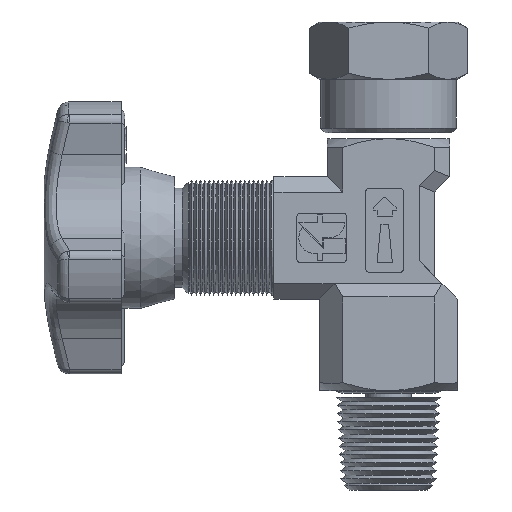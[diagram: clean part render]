
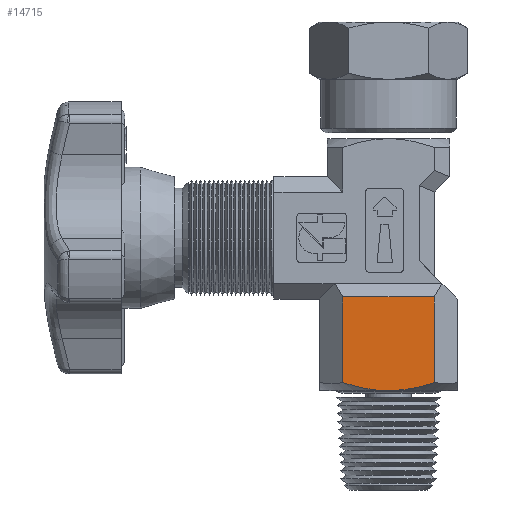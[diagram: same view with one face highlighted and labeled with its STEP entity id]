
A CAD part, left-side view. The second image highlights one B-rep face of the part: STEP entity #14715.
In plain terms, the highlighted planar face has unit normal (-1, 0, 0).
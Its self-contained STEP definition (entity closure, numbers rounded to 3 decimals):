
#89 = VECTOR ( 'NONE', #10836, 1000. ) ;
#301 = CARTESIAN_POINT ( 'NONE',  ( -9., 6., -53. ) ) ;
#340 = CARTESIAN_POINT ( 'NONE',  ( -9., -6., -38.951 ) ) ;
#471 = EDGE_CURVE ( 'NONE', #1850, #11115, #12588, .T. ) ;
#900 = CARTESIAN_POINT ( 'NONE',  ( -9., 1.028, -39.974 ) ) ;
#1814 = CARTESIAN_POINT ( 'NONE',  ( -9., -2.031, -39.898 ) ) ;
#1849 = FACE_OUTER_BOUND ( 'NONE', #7828, .T. ) ;
#1850 = VERTEX_POINT ( 'NONE', #12351 ) ;
#2021 = DIRECTION ( 'NONE',  ( -1., 0., 0. ) ) ;
#2896 = ORIENTED_EDGE ( 'NONE', *, *, #471, .T. ) ;
#2912 = LINE ( 'NONE', #301, #89 ) ;
#3519 = CARTESIAN_POINT ( 'NONE',  ( -9., 0.511, -40. ) ) ;
#3598 = DIRECTION ( 'NONE',  ( 0., -1., 0. ) ) ;
#4258 = CARTESIAN_POINT ( 'NONE',  ( -9., -6., -38.951 ) ) ;
#4267 = CARTESIAN_POINT ( 'NONE',  ( -9., 6., -27.732 ) ) ;
#4368 = CARTESIAN_POINT ( 'NONE',  ( -9., 6., -38.951 ) ) ;
#4437 = DIRECTION ( 'NONE',  ( 0., 0., 1. ) ) ;
#5521 = ORIENTED_EDGE ( 'NONE', *, *, #15281, .F. ) ;
#5582 = EDGE_CURVE ( 'NONE', #14668, #1850, #9993, .T. ) ;
#5622 = CARTESIAN_POINT ( 'NONE',  ( -9., 5.031, -39.261 ) ) ;
#5870 = LINE ( 'NONE', #16431, #10321 ) ;
#6874 = CARTESIAN_POINT ( 'NONE',  ( -9., -1.021, -40. ) ) ;
#6920 = EDGE_CURVE ( 'NONE', #11115, #13147, #11097, .T. ) ;
#7684 = CARTESIAN_POINT ( 'NONE',  ( -9., 0., -40. ) ) ;
#7828 = EDGE_LOOP ( 'NONE', ( #7868, #10734, #2896, #11012, #5521 ) ) ;
#7836 = VERTEX_POINT ( 'NONE', #4267 ) ;
#7868 = ORIENTED_EDGE ( 'NONE', *, *, #15504, .T. ) ;
#8258 = CARTESIAN_POINT ( 'NONE',  ( -9., 2.048, -39.875 ) ) ;
#8566 = CARTESIAN_POINT ( 'NONE',  ( -9., -6., -53. ) ) ;
#8669 = CARTESIAN_POINT ( 'NONE',  ( -9., 0., -40. ) ) ;
#9149 = DIRECTION ( 'NONE',  ( 0., 0., 1. ) ) ;
#9522 = CARTESIAN_POINT ( 'NONE',  ( -9., 2.553, -39.802 ) ) ;
#9982 = CARTESIAN_POINT ( 'NONE',  ( -9., 6., -38.951 ) ) ;
#9993 = B_SPLINE_CURVE_WITH_KNOTS ( 'NONE', 3,
 ( #4368, #5622, #15936, #9522, #8258, #900, #3519, #8669 ),
 .UNSPECIFIED., .F., .F.,
 ( 4, 2, 2, 4 ),
 ( 0.024, 0.027, 0.029, 0.03 ),
 .UNSPECIFIED. ) ;
#10321 = VECTOR ( 'NONE', #3598, 1000. ) ;
#10734 = ORIENTED_EDGE ( 'NONE', *, *, #5582, .T. ) ;
#10836 = DIRECTION ( 'NONE',  ( 0., 0., -1. ) ) ;
#11012 = ORIENTED_EDGE ( 'NONE', *, *, #6920, .T. ) ;
#11097 = LINE ( 'NONE', #8566, #11427 ) ;
#11115 = VERTEX_POINT ( 'NONE', #340 ) ;
#11427 = VECTOR ( 'NONE', #4437, 1000. ) ;
#11632 = CARTESIAN_POINT ( 'NONE',  ( -9., -6., -27.732 ) ) ;
#11647 = CARTESIAN_POINT ( 'NONE',  ( -9., -5.029, -39.262 ) ) ;
#12351 = CARTESIAN_POINT ( 'NONE',  ( -9., 0., -40. ) ) ;
#12588 = B_SPLINE_CURVE_WITH_KNOTS ( 'NONE', 3,
 ( #7684, #6874, #1814, #12839, #11647, #4258 ),
 .UNSPECIFIED., .F., .F.,
 ( 4, 2, 4 ),
 ( 0.03, 0.033, 0.036 ),
 .UNSPECIFIED. ) ;
#12839 = CARTESIAN_POINT ( 'NONE',  ( -9., -4.033, -39.528 ) ) ;
#13147 = VERTEX_POINT ( 'NONE', #11632 ) ;
#13594 = CARTESIAN_POINT ( 'NONE',  ( -9., 9., -53. ) ) ;
#14668 = VERTEX_POINT ( 'NONE', #9982 ) ;
#14715 = ADVANCED_FACE ( 'NONE', ( #1849 ), #15654, .T. ) ;
#15281 = EDGE_CURVE ( 'NONE', #7836, #13147, #5870, .T. ) ;
#15504 = EDGE_CURVE ( 'NONE', #7836, #14668, #2912, .T. ) ;
#15654 = PLANE ( 'NONE',  #15708 ) ;
#15708 = AXIS2_PLACEMENT_3D ( 'NONE', #13594, #2021, #9149 ) ;
#15936 = CARTESIAN_POINT ( 'NONE',  ( -9., 4.051, -39.524 ) ) ;
#16431 = CARTESIAN_POINT ( 'NONE',  ( -9., 9., -27.732 ) ) ;
